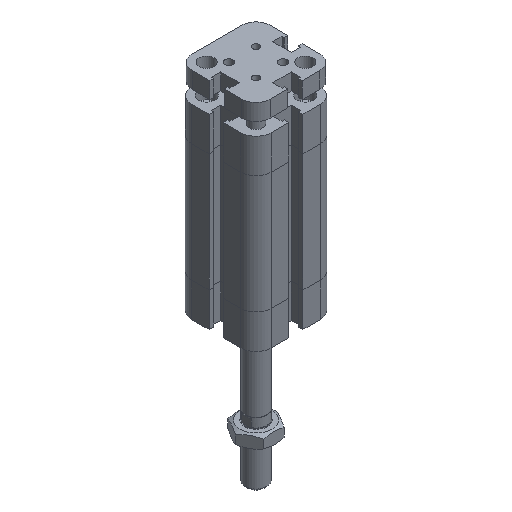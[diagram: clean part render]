
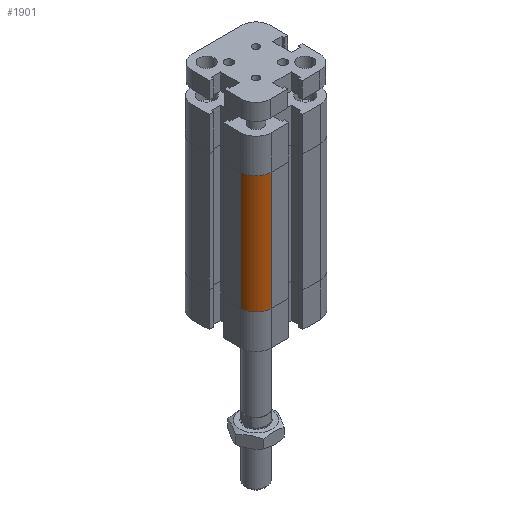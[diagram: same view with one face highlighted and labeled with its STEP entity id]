
A CAD part, isometric view. The second image highlights one B-rep face of the part: STEP entity #1901.
In plain terms, the highlighted cylindrical face has radius 5.5 mm (diameter 11 mm), a partial arc.
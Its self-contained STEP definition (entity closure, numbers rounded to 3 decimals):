
#1812=CARTESIAN_POINT('',(-14.5,-9.,12.5));
#1813=VERTEX_POINT('',#1812);
#1820=CARTESIAN_POINT('',(-14.5,-9.,55.5));
#1821=VERTEX_POINT('',#1820);
#1822=CARTESIAN_POINT('',(-14.5,-9.,12.5));
#1823=DIRECTION('',(0.0,0.0,1.0));
#1824=VECTOR('',#1823,43.);
#1825=LINE('',#1822,#1824);
#1826=EDGE_CURVE('',#1813,#1821,#1825,.T.);
#1869=CARTESIAN_POINT('',(-9.,-9.,0.0));
#1870=DIRECTION('',(0.0,0.0,1.0));
#1871=DIRECTION('',(1.0,0.0,0.0));
#1872=AXIS2_PLACEMENT_3D('',#1869,#1870,#1871);
#1873=CYLINDRICAL_SURFACE('',#1872,5.5);
#1874=CARTESIAN_POINT('',(-9.,-14.5,12.5));
#1875=VERTEX_POINT('',#1874);
#1876=CARTESIAN_POINT('',(-9.,-9.,12.5));
#1877=DIRECTION('',(0.0,0.0,1.0));
#1878=DIRECTION('',(1.0,0.0,0.0));
#1879=AXIS2_PLACEMENT_3D('',#1876,#1877,#1878);
#1880=CIRCLE('',#1879,5.5);
#1881=EDGE_CURVE('',#1813,#1875,#1880,.T.);
#1882=ORIENTED_EDGE('',*,*,#1881,.T.);
#1883=CARTESIAN_POINT('',(-9.,-14.5,55.5));
#1884=VERTEX_POINT('',#1883);
#1885=CARTESIAN_POINT('',(-9.,-14.5,12.5));
#1886=DIRECTION('',(0.0,0.0,1.0));
#1887=VECTOR('',#1886,43.);
#1888=LINE('',#1885,#1887);
#1889=EDGE_CURVE('',#1875,#1884,#1888,.T.);
#1890=ORIENTED_EDGE('',*,*,#1889,.T.);
#1891=CARTESIAN_POINT('',(-9.,-9.,55.5));
#1892=DIRECTION('',(0.0,0.0,1.0));
#1893=DIRECTION('',(1.0,0.0,0.0));
#1894=AXIS2_PLACEMENT_3D('',#1891,#1892,#1893);
#1895=CIRCLE('',#1894,5.5);
#1896=EDGE_CURVE('',#1821,#1884,#1895,.T.);
#1897=ORIENTED_EDGE('',*,*,#1896,.F.);
#1898=ORIENTED_EDGE('',*,*,#1826,.F.);
#1899=EDGE_LOOP('',(#1882,#1890,#1897,#1898));
#1900=FACE_OUTER_BOUND('',#1899,.T.);
#1901=ADVANCED_FACE('',(#1900),#1873,.T.);
